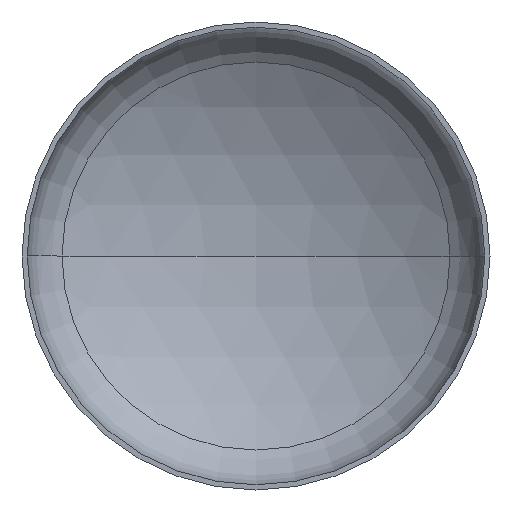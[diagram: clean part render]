
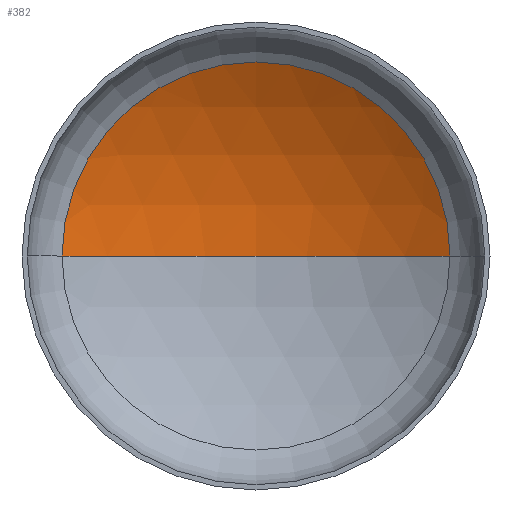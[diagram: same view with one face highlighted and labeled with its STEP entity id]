
A CAD part, front view. The second image highlights one B-rep face of the part: STEP entity #382.
In plain terms, the highlighted spherical face has radius 2880 mm.
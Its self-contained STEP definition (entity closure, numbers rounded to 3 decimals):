
#4 = AXIS2_PLACEMENT_3D ( 'NONE', #96, #352, #245 ) ;
#13 = EDGE_LOOP ( 'NONE', ( #94, #119, #68 ) ) ;
#16 = DIRECTION ( 'NONE',  ( -1., 0., 0. ) ) ;
#25 = DIRECTION ( 'NONE',  ( 0., 0., -1. ) ) ;
#38 = VERTEX_POINT ( 'NONE', #280 ) ;
#42 = AXIS2_PLACEMENT_3D ( 'NONE', #310, #25, #16 ) ;
#44 = AXIS2_PLACEMENT_3D ( 'NONE', #195, #150, #319 ) ;
#68 = ORIENTED_EDGE ( 'NONE', *, *, #88, .T. ) ;
#78 = VERTEX_POINT ( 'NONE', #312 ) ;
#88 = EDGE_CURVE ( 'NONE', #228, #78, #329, .T. ) ;
#94 = ORIENTED_EDGE ( 'NONE', *, *, #346, .F. ) ;
#96 = CARTESIAN_POINT ( 'NONE',  ( 0., -1868.366, 0. ) ) ;
#105 = EDGE_CURVE ( 'NONE', #38, #228, #260, .T. ) ;
#119 = ORIENTED_EDGE ( 'NONE', *, *, #105, .T. ) ;
#150 = DIRECTION ( 'NONE',  ( 0., -1., 0. ) ) ;
#195 = CARTESIAN_POINT ( 'NONE',  ( 0., 594.642, 0. ) ) ;
#228 = VERTEX_POINT ( 'NONE', #267 ) ;
#245 = DIRECTION ( 'NONE',  ( 1., 0., 0. ) ) ;
#260 = CIRCLE ( 'NONE', #42, 2880. ) ;
#267 = CARTESIAN_POINT ( 'NONE',  ( 1492.645, 594.642, 0. ) ) ;
#275 = SPHERICAL_SURFACE ( 'NONE', #337, 2880. ) ;
#280 = CARTESIAN_POINT ( 'NONE',  ( 0., 1011.634, 0. ) ) ;
#285 = FACE_OUTER_BOUND ( 'NONE', #13, .T. ) ;
#298 = DIRECTION ( 'NONE',  ( 0., 0., -1. ) ) ;
#310 = CARTESIAN_POINT ( 'NONE',  ( 0., -1868.366, 0. ) ) ;
#312 = CARTESIAN_POINT ( 'NONE',  ( -1492.645, 594.642, 0. ) ) ;
#319 = DIRECTION ( 'NONE',  ( 1., 0., 0. ) ) ;
#329 = CIRCLE ( 'NONE', #44, 1492.645 ) ;
#337 = AXIS2_PLACEMENT_3D ( 'NONE', #389, #298, #372 ) ;
#346 = EDGE_CURVE ( 'NONE', #38, #78, #410, .T. ) ;
#352 = DIRECTION ( 'NONE',  ( 0., 0., 1. ) ) ;
#372 = DIRECTION ( 'NONE',  ( -1., 0., 0. ) ) ;
#382 = ADVANCED_FACE ( 'NONE', ( #285 ), #275, .F. ) ;
#389 = CARTESIAN_POINT ( 'NONE',  ( 0., -1868.366, 0. ) ) ;
#410 = CIRCLE ( 'NONE', #4, 2880. ) ;
